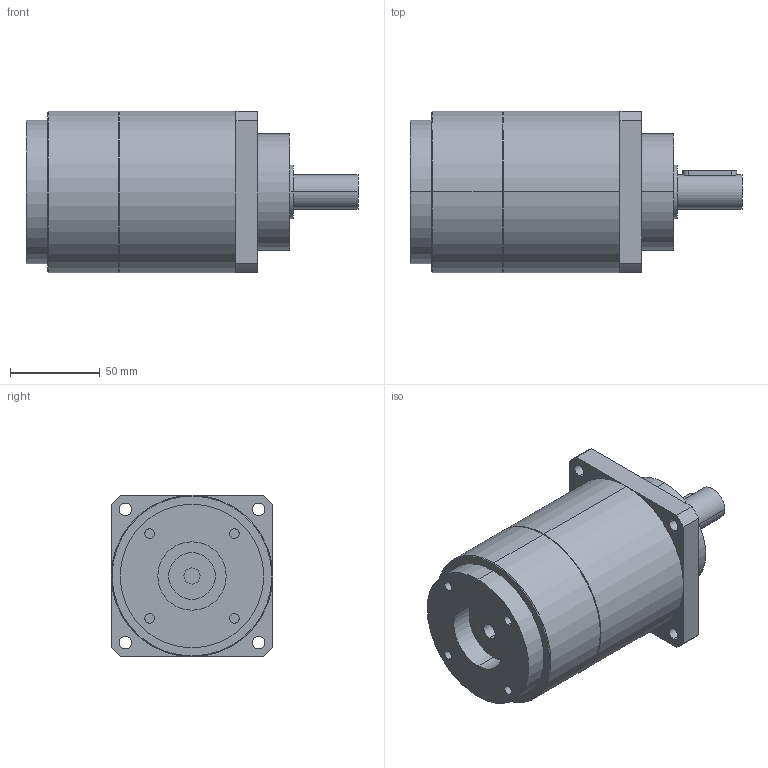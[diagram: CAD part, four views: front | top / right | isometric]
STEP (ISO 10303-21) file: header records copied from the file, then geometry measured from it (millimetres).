
FILE_DESCRIPTION(('CoCreate Modeling STEP Export'),'2;1');
FILE_NAME('GPT90_ig-9-12-16-20-25-28-35-40-50-70-100_19_B5T_9_P01.stp','2015-02-04T11:33:33',(''),(''),'CoCreate Modeling STEP processor for AP214 (Solid Model)','CoCreate Modeling 16.00C 25-Feb-2009 (C) Parametric Technology GmbH','');
FILE_SCHEMA(('AUTOMOTIVE_DESIGN { 1 0 10303 214 1 1 1 1 }'));
Length unit declared in the file: millimetre
Products named in the file (2): GPT90_ig-9-12-16-20-25-28-35-40-50-70-100_19_B5T_9_P01
Assembly tree (1 placements, depth 2):
  GPT90_ig-9-12-16-20-25-28-35-40-50-70-100_19_B5T_9_P01
    GPT90_ig-9-12-16-20-25-28-35-40-50-70-100_19_B5T_9_P01
Bounding box: 185 x 90 x 90 mm (x, y, z)
Volume: 878832.4 mm3; surface area: 63836.3 mm2
Topology: 1 solids, 1 shells, 72 faces, 182 edges, 125 vertices
Faces by surface type: cylinder 42, plane 26, cone 4
Entity records: 2313 total; most frequent: CARTESIAN_POINT 692, ORIENTED_EDGE 364, DIRECTION 272, EDGE_CURVE 182, VERTEX_POINT 125, AXIS2_PLACEMENT_3D 102, EDGE_LOOP 93, FACE_OUTER_BOUND 72
